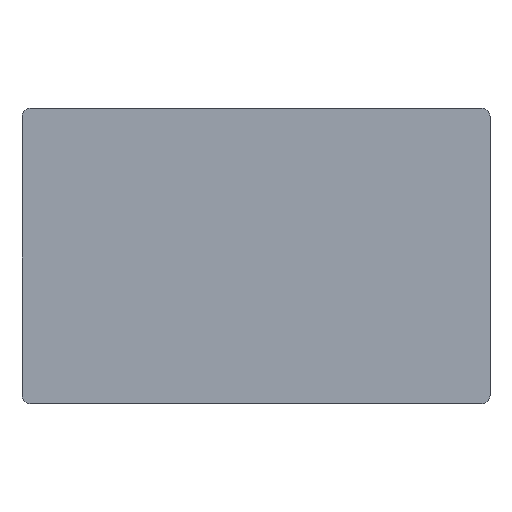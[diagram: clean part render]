
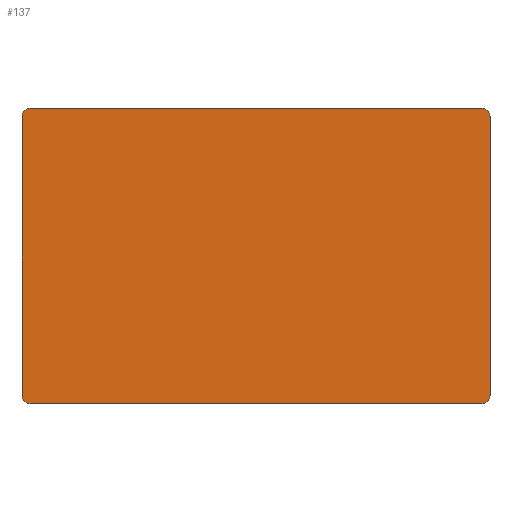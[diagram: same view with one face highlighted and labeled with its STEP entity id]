
A CAD part, top view. The second image highlights one B-rep face of the part: STEP entity #137.
In plain terms, the highlighted planar face has unit normal (0, 0, 1).
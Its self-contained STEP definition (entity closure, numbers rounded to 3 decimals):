
#21 = EDGE_CURVE('',#22,#24,#26,.T.);
#22 = VERTEX_POINT('',#23);
#23 = CARTESIAN_POINT('',(-42.8,-25.49,0.38));
#24 = VERTEX_POINT('',#25);
#25 = CARTESIAN_POINT('',(-42.8,25.49,0.38));
#26 = SURFACE_CURVE('',#27,(#31,#43),.PCURVE_S1.);
#27 = LINE('',#28,#29);
#28 = CARTESIAN_POINT('',(-42.8,-26.99,0.38));
#29 = VECTOR('',#30,1.);
#30 = DIRECTION('',(0.,1.,0.));
#31 = PCURVE('',#32,#37);
#32 = PLANE('',#33);
#33 = AXIS2_PLACEMENT_3D('',#34,#35,#36);
#34 = CARTESIAN_POINT('',(-42.8,-26.99,-0.38));
#35 = DIRECTION('',(1.,0.,0.));
#36 = DIRECTION('',(0.,0.,1.));
#37 = DEFINITIONAL_REPRESENTATION('',(#38),#42);
#38 = LINE('',#39,#40);
#39 = CARTESIAN_POINT('',(0.76,0.));
#40 = VECTOR('',#41,1.);
#41 = DIRECTION('',(0.,-1.));
#42 = ( GEOMETRIC_REPRESENTATION_CONTEXT(2) 
PARAMETRIC_REPRESENTATION_CONTEXT() REPRESENTATION_CONTEXT('2D SPACE',''
  ) );
#43 = PCURVE('',#44,#49);
#44 = PLANE('',#45);
#45 = AXIS2_PLACEMENT_3D('',#46,#47,#48);
#46 = CARTESIAN_POINT('',(-42.8,-26.99,0.38));
#47 = DIRECTION('',(0.,0.,1.));
#48 = DIRECTION('',(1.,0.,0.));
#49 = DEFINITIONAL_REPRESENTATION('',(#50),#54);
#50 = LINE('',#51,#52);
#51 = CARTESIAN_POINT('',(0.,0.));
#52 = VECTOR('',#53,1.);
#53 = DIRECTION('',(0.,1.));
#54 = ( GEOMETRIC_REPRESENTATION_CONTEXT(2) 
PARAMETRIC_REPRESENTATION_CONTEXT() REPRESENTATION_CONTEXT('2D SPACE',''
  ) );
#72 = CYLINDRICAL_SURFACE('',#73,1.5);
#73 = AXIS2_PLACEMENT_3D('',#74,#75,#76);
#74 = CARTESIAN_POINT('',(-41.3,-25.49,-0.38));
#75 = DIRECTION('',(0.,0.,1.));
#76 = DIRECTION('',(-1.,-0.,0.));
#126 = CYLINDRICAL_SURFACE('',#127,1.5);
#127 = AXIS2_PLACEMENT_3D('',#128,#129,#130);
#128 = CARTESIAN_POINT('',(-41.3,25.49,-0.38));
#129 = DIRECTION('',(0.,0.,1.));
#130 = DIRECTION('',(-1.,-0.,0.));
#137 = ADVANCED_FACE('',(#138),#44,.T.);
#138 = FACE_BOUND('',#139,.T.);
#139 = EDGE_LOOP('',(#140,#141,#165,#193,#226,#254,#283,#311));
#140 = ORIENTED_EDGE('',*,*,#21,.F.);
#141 = ORIENTED_EDGE('',*,*,#142,.T.);
#142 = EDGE_CURVE('',#22,#143,#145,.T.);
#143 = VERTEX_POINT('',#144);
#144 = CARTESIAN_POINT('',(-41.3,-26.99,0.38));
#145 = SURFACE_CURVE('',#146,(#151,#158),.PCURVE_S1.);
#146 = CIRCLE('',#147,1.5);
#147 = AXIS2_PLACEMENT_3D('',#148,#149,#150);
#148 = CARTESIAN_POINT('',(-41.3,-25.49,0.38));
#149 = DIRECTION('',(0.,0.,1.));
#150 = DIRECTION('',(0.,-1.,0.));
#151 = PCURVE('',#44,#152);
#152 = DEFINITIONAL_REPRESENTATION('',(#153),#157);
#153 = CIRCLE('',#154,1.5);
#154 = AXIS2_PLACEMENT_2D('',#155,#156);
#155 = CARTESIAN_POINT('',(1.5,1.5));
#156 = DIRECTION('',(0.,-1.));
#157 = ( GEOMETRIC_REPRESENTATION_CONTEXT(2) 
PARAMETRIC_REPRESENTATION_CONTEXT() REPRESENTATION_CONTEXT('2D SPACE',''
  ) );
#158 = PCURVE('',#72,#159);
#159 = DEFINITIONAL_REPRESENTATION('',(#160),#164);
#160 = LINE('',#161,#162);
#161 = CARTESIAN_POINT('',(-4.712,0.76));
#162 = VECTOR('',#163,1.);
#163 = DIRECTION('',(1.,0.));
#164 = ( GEOMETRIC_REPRESENTATION_CONTEXT(2) 
PARAMETRIC_REPRESENTATION_CONTEXT() REPRESENTATION_CONTEXT('2D SPACE',''
  ) );
#165 = ORIENTED_EDGE('',*,*,#166,.T.);
#166 = EDGE_CURVE('',#143,#167,#169,.T.);
#167 = VERTEX_POINT('',#168);
#168 = CARTESIAN_POINT('',(41.3,-26.99,0.38));
#169 = SURFACE_CURVE('',#170,(#174,#181),.PCURVE_S1.);
#170 = LINE('',#171,#172);
#171 = CARTESIAN_POINT('',(-42.8,-26.99,0.38));
#172 = VECTOR('',#173,1.);
#173 = DIRECTION('',(1.,0.,0.));
#174 = PCURVE('',#44,#175);
#175 = DEFINITIONAL_REPRESENTATION('',(#176),#180);
#176 = LINE('',#177,#178);
#177 = CARTESIAN_POINT('',(0.,0.));
#178 = VECTOR('',#179,1.);
#179 = DIRECTION('',(1.,0.));
#180 = ( GEOMETRIC_REPRESENTATION_CONTEXT(2) 
PARAMETRIC_REPRESENTATION_CONTEXT() REPRESENTATION_CONTEXT('2D SPACE',''
  ) );
#181 = PCURVE('',#182,#187);
#182 = PLANE('',#183);
#183 = AXIS2_PLACEMENT_3D('',#184,#185,#186);
#184 = CARTESIAN_POINT('',(-42.8,-26.99,-0.38));
#185 = DIRECTION('',(0.,1.,0.));
#186 = DIRECTION('',(0.,0.,1.));
#187 = DEFINITIONAL_REPRESENTATION('',(#188),#192);
#188 = LINE('',#189,#190);
#189 = CARTESIAN_POINT('',(0.76,0.));
#190 = VECTOR('',#191,1.);
#191 = DIRECTION('',(0.,1.));
#192 = ( GEOMETRIC_REPRESENTATION_CONTEXT(2) 
PARAMETRIC_REPRESENTATION_CONTEXT() REPRESENTATION_CONTEXT('2D SPACE',''
  ) );
#193 = ORIENTED_EDGE('',*,*,#194,.F.);
#194 = EDGE_CURVE('',#195,#167,#197,.T.);
#195 = VERTEX_POINT('',#196);
#196 = CARTESIAN_POINT('',(42.8,-25.49,0.38));
#197 = SURFACE_CURVE('',#198,(#203,#214),.PCURVE_S1.);
#198 = CIRCLE('',#199,1.5);
#199 = AXIS2_PLACEMENT_3D('',#200,#201,#202);
#200 = CARTESIAN_POINT('',(41.3,-25.49,0.38));
#201 = DIRECTION('',(-0.,-0.,-1.));
#202 = DIRECTION('',(0.,-1.,0.));
#203 = PCURVE('',#44,#204);
#204 = DEFINITIONAL_REPRESENTATION('',(#205),#213);
#205 = ( BOUNDED_CURVE() B_SPLINE_CURVE(2,(#206,#207,#208,#209,#210,#211
,#212),.UNSPECIFIED.,.T.,.F.) B_SPLINE_CURVE_WITH_KNOTS((1,2,2,2,2,1),(
    -2.094,0.,2.094,4.189,6.283,
8.378),.UNSPECIFIED.) CURVE() GEOMETRIC_REPRESENTATION_ITEM() 
RATIONAL_B_SPLINE_CURVE((1.,0.5,1.,0.5,1.,0.5,1.)) REPRESENTATION_ITEM(
  '') );
#206 = CARTESIAN_POINT('',(84.1,0.));
#207 = CARTESIAN_POINT('',(81.502,0.));
#208 = CARTESIAN_POINT('',(82.801,2.25));
#209 = CARTESIAN_POINT('',(84.1,4.5));
#210 = CARTESIAN_POINT('',(85.399,2.25));
#211 = CARTESIAN_POINT('',(86.698,0.));
#212 = CARTESIAN_POINT('',(84.1,0.));
#213 = ( GEOMETRIC_REPRESENTATION_CONTEXT(2) 
PARAMETRIC_REPRESENTATION_CONTEXT() REPRESENTATION_CONTEXT('2D SPACE',''
  ) );
#214 = PCURVE('',#215,#220);
#215 = CYLINDRICAL_SURFACE('',#216,1.5);
#216 = AXIS2_PLACEMENT_3D('',#217,#218,#219);
#217 = CARTESIAN_POINT('',(41.3,-25.49,-0.38));
#218 = DIRECTION('',(0.,0.,1.));
#219 = DIRECTION('',(1.,0.,-0.));
#220 = DEFINITIONAL_REPRESENTATION('',(#221),#225);
#221 = LINE('',#222,#223);
#222 = CARTESIAN_POINT('',(4.712,0.76));
#223 = VECTOR('',#224,1.);
#224 = DIRECTION('',(-1.,0.));
#225 = ( GEOMETRIC_REPRESENTATION_CONTEXT(2) 
PARAMETRIC_REPRESENTATION_CONTEXT() REPRESENTATION_CONTEXT('2D SPACE',''
  ) );
#226 = ORIENTED_EDGE('',*,*,#227,.T.);
#227 = EDGE_CURVE('',#195,#228,#230,.T.);
#228 = VERTEX_POINT('',#229);
#229 = CARTESIAN_POINT('',(42.8,25.49,0.38));
#230 = SURFACE_CURVE('',#231,(#235,#242),.PCURVE_S1.);
#231 = LINE('',#232,#233);
#232 = CARTESIAN_POINT('',(42.8,-26.99,0.38));
#233 = VECTOR('',#234,1.);
#234 = DIRECTION('',(0.,1.,0.));
#235 = PCURVE('',#44,#236);
#236 = DEFINITIONAL_REPRESENTATION('',(#237),#241);
#237 = LINE('',#238,#239);
#238 = CARTESIAN_POINT('',(85.6,0.));
#239 = VECTOR('',#240,1.);
#240 = DIRECTION('',(0.,1.));
#241 = ( GEOMETRIC_REPRESENTATION_CONTEXT(2) 
PARAMETRIC_REPRESENTATION_CONTEXT() REPRESENTATION_CONTEXT('2D SPACE',''
  ) );
#242 = PCURVE('',#243,#248);
#243 = PLANE('',#244);
#244 = AXIS2_PLACEMENT_3D('',#245,#246,#247);
#245 = CARTESIAN_POINT('',(42.8,-26.99,-0.38));
#246 = DIRECTION('',(1.,0.,0.));
#247 = DIRECTION('',(0.,0.,1.));
#248 = DEFINITIONAL_REPRESENTATION('',(#249),#253);
#249 = LINE('',#250,#251);
#250 = CARTESIAN_POINT('',(0.76,0.));
#251 = VECTOR('',#252,1.);
#252 = DIRECTION('',(0.,-1.));
#253 = ( GEOMETRIC_REPRESENTATION_CONTEXT(2) 
PARAMETRIC_REPRESENTATION_CONTEXT() REPRESENTATION_CONTEXT('2D SPACE',''
  ) );
#254 = ORIENTED_EDGE('',*,*,#255,.T.);
#255 = EDGE_CURVE('',#228,#256,#258,.T.);
#256 = VERTEX_POINT('',#257);
#257 = CARTESIAN_POINT('',(41.3,26.99,0.38));
#258 = SURFACE_CURVE('',#259,(#264,#271),.PCURVE_S1.);
#259 = CIRCLE('',#260,1.5);
#260 = AXIS2_PLACEMENT_3D('',#261,#262,#263);
#261 = CARTESIAN_POINT('',(41.3,25.49,0.38));
#262 = DIRECTION('',(0.,0.,1.));
#263 = DIRECTION('',(0.,-1.,0.));
#264 = PCURVE('',#44,#265);
#265 = DEFINITIONAL_REPRESENTATION('',(#266),#270);
#266 = CIRCLE('',#267,1.5);
#267 = AXIS2_PLACEMENT_2D('',#268,#269);
#268 = CARTESIAN_POINT('',(84.1,52.48));
#269 = DIRECTION('',(0.,-1.));
#270 = ( GEOMETRIC_REPRESENTATION_CONTEXT(2) 
PARAMETRIC_REPRESENTATION_CONTEXT() REPRESENTATION_CONTEXT('2D SPACE',''
  ) );
#271 = PCURVE('',#272,#277);
#272 = CYLINDRICAL_SURFACE('',#273,1.5);
#273 = AXIS2_PLACEMENT_3D('',#274,#275,#276);
#274 = CARTESIAN_POINT('',(41.3,25.49,-0.38));
#275 = DIRECTION('',(0.,0.,1.));
#276 = DIRECTION('',(1.,0.,-0.));
#277 = DEFINITIONAL_REPRESENTATION('',(#278),#282);
#278 = LINE('',#279,#280);
#279 = CARTESIAN_POINT('',(-1.571,0.76));
#280 = VECTOR('',#281,1.);
#281 = DIRECTION('',(1.,0.));
#282 = ( GEOMETRIC_REPRESENTATION_CONTEXT(2) 
PARAMETRIC_REPRESENTATION_CONTEXT() REPRESENTATION_CONTEXT('2D SPACE',''
  ) );
#283 = ORIENTED_EDGE('',*,*,#284,.F.);
#284 = EDGE_CURVE('',#285,#256,#287,.T.);
#285 = VERTEX_POINT('',#286);
#286 = CARTESIAN_POINT('',(-41.3,26.99,0.38));
#287 = SURFACE_CURVE('',#288,(#292,#299),.PCURVE_S1.);
#288 = LINE('',#289,#290);
#289 = CARTESIAN_POINT('',(-42.8,26.99,0.38));
#290 = VECTOR('',#291,1.);
#291 = DIRECTION('',(1.,0.,0.));
#292 = PCURVE('',#44,#293);
#293 = DEFINITIONAL_REPRESENTATION('',(#294),#298);
#294 = LINE('',#295,#296);
#295 = CARTESIAN_POINT('',(0.,53.98));
#296 = VECTOR('',#297,1.);
#297 = DIRECTION('',(1.,0.));
#298 = ( GEOMETRIC_REPRESENTATION_CONTEXT(2) 
PARAMETRIC_REPRESENTATION_CONTEXT() REPRESENTATION_CONTEXT('2D SPACE',''
  ) );
#299 = PCURVE('',#300,#305);
#300 = PLANE('',#301);
#301 = AXIS2_PLACEMENT_3D('',#302,#303,#304);
#302 = CARTESIAN_POINT('',(-42.8,26.99,-0.38));
#303 = DIRECTION('',(0.,1.,0.));
#304 = DIRECTION('',(0.,0.,1.));
#305 = DEFINITIONAL_REPRESENTATION('',(#306),#310);
#306 = LINE('',#307,#308);
#307 = CARTESIAN_POINT('',(0.76,0.));
#308 = VECTOR('',#309,1.);
#309 = DIRECTION('',(0.,1.));
#310 = ( GEOMETRIC_REPRESENTATION_CONTEXT(2) 
PARAMETRIC_REPRESENTATION_CONTEXT() REPRESENTATION_CONTEXT('2D SPACE',''
  ) );
#311 = ORIENTED_EDGE('',*,*,#312,.F.);
#312 = EDGE_CURVE('',#24,#285,#313,.T.);
#313 = SURFACE_CURVE('',#314,(#319,#330),.PCURVE_S1.);
#314 = CIRCLE('',#315,1.5);
#315 = AXIS2_PLACEMENT_3D('',#316,#317,#318);
#316 = CARTESIAN_POINT('',(-41.3,25.49,0.38));
#317 = DIRECTION('',(-0.,-0.,-1.));
#318 = DIRECTION('',(0.,-1.,0.));
#319 = PCURVE('',#44,#320);
#320 = DEFINITIONAL_REPRESENTATION('',(#321),#329);
#321 = ( BOUNDED_CURVE() B_SPLINE_CURVE(2,(#322,#323,#324,#325,#326,#327
,#328),.UNSPECIFIED.,.T.,.F.) B_SPLINE_CURVE_WITH_KNOTS((1,2,2,2,2,1),(
    -2.094,0.,2.094,4.189,6.283,
8.378),.UNSPECIFIED.) CURVE() GEOMETRIC_REPRESENTATION_ITEM() 
RATIONAL_B_SPLINE_CURVE((1.,0.5,1.,0.5,1.,0.5,1.)) REPRESENTATION_ITEM(
  '') );
#322 = CARTESIAN_POINT('',(1.5,50.98));
#323 = CARTESIAN_POINT('',(-1.098,50.98));
#324 = CARTESIAN_POINT('',(0.201,53.23));
#325 = CARTESIAN_POINT('',(1.5,55.48));
#326 = CARTESIAN_POINT('',(2.799,53.23));
#327 = CARTESIAN_POINT('',(4.098,50.98));
#328 = CARTESIAN_POINT('',(1.5,50.98));
#329 = ( GEOMETRIC_REPRESENTATION_CONTEXT(2) 
PARAMETRIC_REPRESENTATION_CONTEXT() REPRESENTATION_CONTEXT('2D SPACE',''
  ) );
#330 = PCURVE('',#126,#331);
#331 = DEFINITIONAL_REPRESENTATION('',(#332),#336);
#332 = LINE('',#333,#334);
#333 = CARTESIAN_POINT('',(1.571,0.76));
#334 = VECTOR('',#335,1.);
#335 = DIRECTION('',(-1.,0.));
#336 = ( GEOMETRIC_REPRESENTATION_CONTEXT(2) 
PARAMETRIC_REPRESENTATION_CONTEXT() REPRESENTATION_CONTEXT('2D SPACE',''
  ) );
